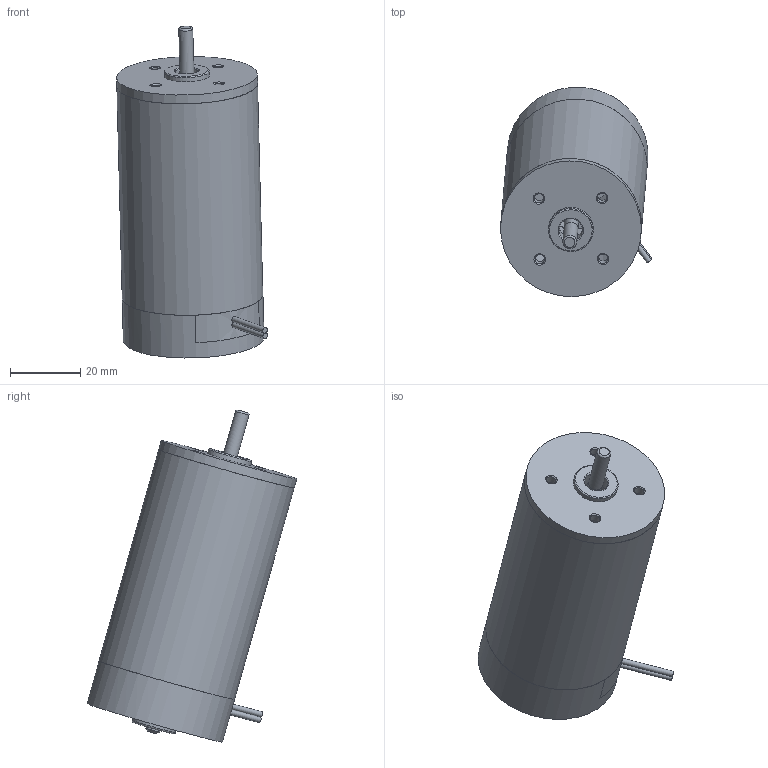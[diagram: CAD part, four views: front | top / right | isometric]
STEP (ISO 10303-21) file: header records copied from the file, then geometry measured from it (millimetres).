
FILE_DESCRIPTION((''),'2;1');
FILE_NAME('D:\연구개발부2팀 1파트\10_진행업무\3D\RM4_SERIES\RM46ㅁBL.stp','2014-06-23T10:36:45',('song'),(''),'Autodesk Inventor 2011','Autodesk Inventor 2011','');
FILE_SCHEMA(('AUTOMOTIVE_DESIGN { 1 0 10303 214 1 1 1 1 }'));
Length unit declared in the file: millimetre
Products named in the file (8): RM46ㅁBL; RM4TYPE_FRONT_HOUSING_; RM4TYPE_PIPE_HOUSING_pi40XL62.4; RM46TYPE_SHAFT; AS 1427 Z - 미터 M3.5 x 5; REAR_HOUSING__ASS'Y_LEAD; RM4TYPE_BRUSH_BRAKET_LEAD; RM4TYPE_REAR_HOUSING
Assembly tree (7 placements, depth 2):
  RM46ㅁBL
    RM4TYPE_FRONT_HOUSING_
    RM4TYPE_PIPE_HOUSING_pi40XL62.4
    RM46TYPE_SHAFT
    AS 1427 Z - 미터 M3.5 x 5  x2
  REAR_HOUSING__ASS'Y_LEAD
    RM4TYPE_BRUSH_BRAKET_LEAD
    RM4TYPE_REAR_HOUSING
Bounding box: 42.85 x 59.52 x 94.26 mm (x, y, z)
Volume: 24558.2 mm3; surface area: 25625.4 mm2
Topology: 7 solids, 8 shells, 150 faces, 359 edges, 226 vertices
Faces by surface type: plane 65, cone 44, cylinder 30, torus 11
Full cylindrical faces by diameter (mm): 1.6 x2, 2.7 x4, 2.8 x4, 3.132 x2, 3.5 x2, 3.7 x2, 3.969 x1, 4 x1, 6.1 x2, 6.5 x1, 6.65 x1, 12.7 x2, 36.5 x1, 40 x3
Entity records: 3260 total; most frequent: CARTESIAN_POINT 711, DIRECTION 516, ORIENTED_EDGE 402, AXIS2_PLACEMENT_3D 226, EDGE_CURVE 201, EDGE_LOOP 181, VERTEX_POINT 149, FACE_OUTER_BOUND 109
